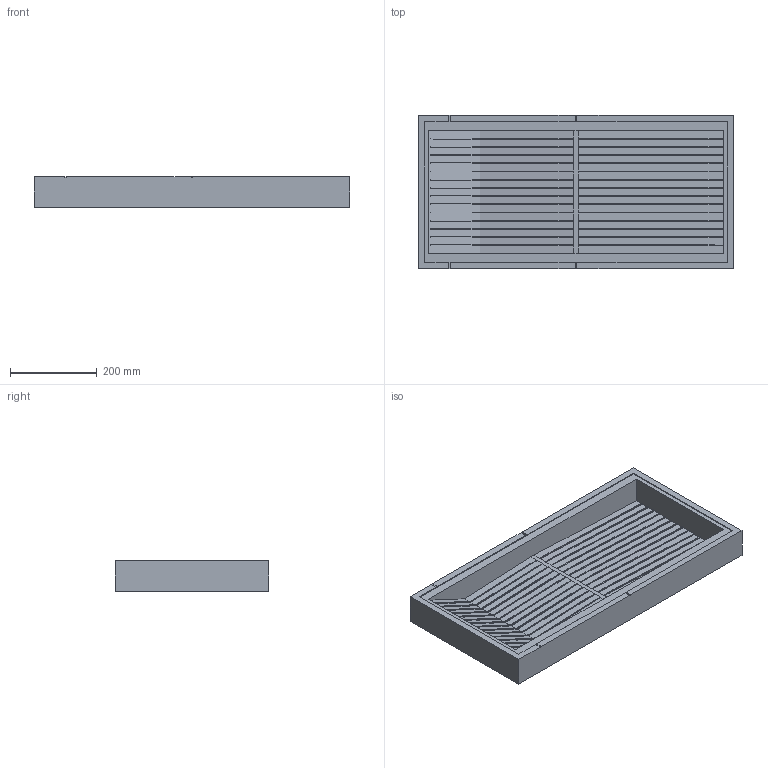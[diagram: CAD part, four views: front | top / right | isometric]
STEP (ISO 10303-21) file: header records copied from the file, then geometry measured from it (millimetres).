
FILE_DESCRIPTION(/* description */ (''),/* implementation_level */ '2;1');
FILE_NAME(/* name */ '2022-05-02 Detecteur Mousse v2 v22.step',/* time_stamp */ '2025-08-04T10:03:18+02:00',/* author */ (''),/* organization */ (''),/* preprocessor_version */ 'ST-DEVELOPER v20.1',/* originating_system */ 'Autodesk Translation Framework v14.10.0.0',/* authorisation */ '');
FILE_SCHEMA (('AUTOMOTIVE_DESIGN { 1 0 10303 214 3 1 1 }'));
Length unit declared in the file: millimetre
Products named in the file (1): 2022-05-02 Detecteur Mousse v2
Bounding box: 730 x 355.6 x 70 mm (x, y, z)
Volume: 8080910.6 mm3; surface area: 796970.7 mm2
Topology: 1 solids, 1 shells, 188 faces, 555 edges, 370 vertices
Faces by surface type: plane 188
Entity records: 6172 total; most frequent: CARTESIAN_POINT 1114, ORIENTED_EDGE 1110, DIRECTION 933, LINE 555, VECTOR 555, EDGE_CURVE 555, VERTEX_POINT 370, EDGE_LOOP 189
